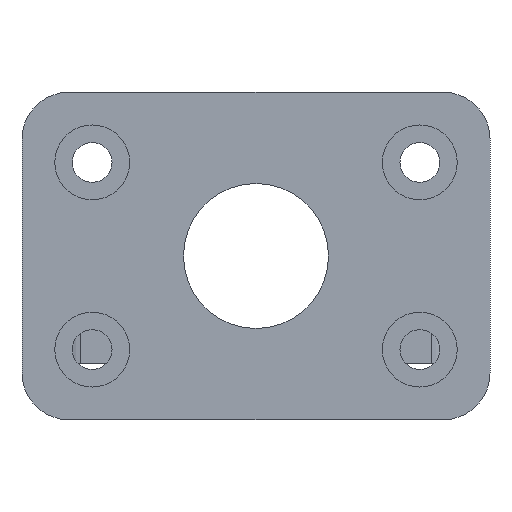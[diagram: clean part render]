
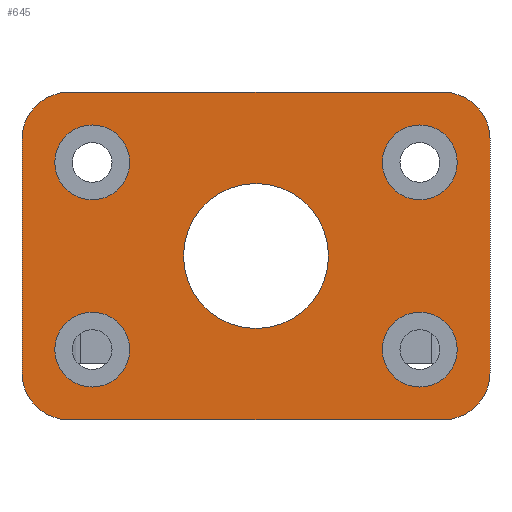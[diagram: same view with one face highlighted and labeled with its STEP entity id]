
A CAD part, front view. The second image highlights one B-rep face of the part: STEP entity #645.
In plain terms, the highlighted planar face has unit normal (0, -1, 0).
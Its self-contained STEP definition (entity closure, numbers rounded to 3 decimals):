
#33 = VERTEX_POINT('',#34);
#34 = CARTESIAN_POINT('',(0.,-17.5,20.2));
#40 = EDGE_CURVE('',#33,#33,#41,.T.);
#41 = CIRCLE('',#42,6.2);
#42 = AXIS2_PLACEMENT_3D('',#43,#44,#45);
#43 = CARTESIAN_POINT('',(0.,-17.5,14.));
#44 = DIRECTION('',(0.,1.,0.));
#45 = DIRECTION('',(0.,0.,1.));
#645 = ADVANCED_FACE('',(#646,#716,#727,#738,#741,#752),#763,.T.);
#646 = FACE_BOUND('',#647,.T.);
#647 = EDGE_LOOP('',(#648,#658,#667,#675,#684,#692,#701,#709));
#648 = ORIENTED_EDGE('',*,*,#649,.F.);
#649 = EDGE_CURVE('',#650,#652,#654,.T.);
#650 = VERTEX_POINT('',#651);
#651 = CARTESIAN_POINT('',(-20.,-17.5,4.));
#652 = VERTEX_POINT('',#653);
#653 = CARTESIAN_POINT('',(-20.,-17.5,24.));
#654 = LINE('',#655,#656);
#655 = CARTESIAN_POINT('',(-20.,-17.5,0.));
#656 = VECTOR('',#657,1.);
#657 = DIRECTION('',(0.,0.,1.));
#658 = ORIENTED_EDGE('',*,*,#659,.T.);
#659 = EDGE_CURVE('',#650,#660,#662,.T.);
#660 = VERTEX_POINT('',#661);
#661 = CARTESIAN_POINT('',(-16.,-17.5,0.));
#662 = CIRCLE('',#663,4.);
#663 = AXIS2_PLACEMENT_3D('',#664,#665,#666);
#664 = CARTESIAN_POINT('',(-16.,-17.5,4.));
#665 = DIRECTION('',(0.,-1.,0.));
#666 = DIRECTION('',(0.,0.,-1.));
#667 = ORIENTED_EDGE('',*,*,#668,.T.);
#668 = EDGE_CURVE('',#660,#669,#671,.T.);
#669 = VERTEX_POINT('',#670);
#670 = CARTESIAN_POINT('',(16.,-17.5,0.));
#671 = LINE('',#672,#673);
#672 = CARTESIAN_POINT('',(-20.,-17.5,0.));
#673 = VECTOR('',#674,1.);
#674 = DIRECTION('',(1.,0.,0.));
#675 = ORIENTED_EDGE('',*,*,#676,.F.);
#676 = EDGE_CURVE('',#677,#669,#679,.T.);
#677 = VERTEX_POINT('',#678);
#678 = CARTESIAN_POINT('',(20.,-17.5,4.));
#679 = CIRCLE('',#680,4.);
#680 = AXIS2_PLACEMENT_3D('',#681,#682,#683);
#681 = CARTESIAN_POINT('',(16.,-17.5,4.));
#682 = DIRECTION('',(0.,1.,0.));
#683 = DIRECTION('',(0.,0.,-1.));
#684 = ORIENTED_EDGE('',*,*,#685,.T.);
#685 = EDGE_CURVE('',#677,#686,#688,.T.);
#686 = VERTEX_POINT('',#687);
#687 = CARTESIAN_POINT('',(20.,-17.5,24.));
#688 = LINE('',#689,#690);
#689 = CARTESIAN_POINT('',(20.,-17.5,0.));
#690 = VECTOR('',#691,1.);
#691 = DIRECTION('',(0.,0.,1.));
#692 = ORIENTED_EDGE('',*,*,#693,.T.);
#693 = EDGE_CURVE('',#686,#694,#696,.T.);
#694 = VERTEX_POINT('',#695);
#695 = CARTESIAN_POINT('',(16.,-17.5,28.));
#696 = CIRCLE('',#697,4.);
#697 = AXIS2_PLACEMENT_3D('',#698,#699,#700);
#698 = CARTESIAN_POINT('',(16.,-17.5,24.));
#699 = DIRECTION('',(0.,-1.,0.));
#700 = DIRECTION('',(0.,0.,-1.));
#701 = ORIENTED_EDGE('',*,*,#702,.F.);
#702 = EDGE_CURVE('',#703,#694,#705,.T.);
#703 = VERTEX_POINT('',#704);
#704 = CARTESIAN_POINT('',(-16.,-17.5,28.));
#705 = LINE('',#706,#707);
#706 = CARTESIAN_POINT('',(-20.,-17.5,28.));
#707 = VECTOR('',#708,1.);
#708 = DIRECTION('',(1.,0.,0.));
#709 = ORIENTED_EDGE('',*,*,#710,.F.);
#710 = EDGE_CURVE('',#652,#703,#711,.T.);
#711 = CIRCLE('',#712,4.);
#712 = AXIS2_PLACEMENT_3D('',#713,#714,#715);
#713 = CARTESIAN_POINT('',(-16.,-17.5,24.));
#714 = DIRECTION('',(0.,1.,0.));
#715 = DIRECTION('',(0.,0.,-1.));
#716 = FACE_BOUND('',#717,.T.);
#717 = EDGE_LOOP('',(#718));
#718 = ORIENTED_EDGE('',*,*,#719,.T.);
#719 = EDGE_CURVE('',#720,#720,#722,.T.);
#720 = VERTEX_POINT('',#721);
#721 = CARTESIAN_POINT('',(-14.,-17.5,9.2));
#722 = CIRCLE('',#723,3.2);
#723 = AXIS2_PLACEMENT_3D('',#724,#725,#726);
#724 = CARTESIAN_POINT('',(-14.,-17.5,6.));
#725 = DIRECTION('',(0.,1.,0.));
#726 = DIRECTION('',(0.,0.,1.));
#727 = FACE_BOUND('',#728,.T.);
#728 = EDGE_LOOP('',(#729));
#729 = ORIENTED_EDGE('',*,*,#730,.T.);
#730 = EDGE_CURVE('',#731,#731,#733,.T.);
#731 = VERTEX_POINT('',#732);
#732 = CARTESIAN_POINT('',(14.,-17.5,9.2));
#733 = CIRCLE('',#734,3.2);
#734 = AXIS2_PLACEMENT_3D('',#735,#736,#737);
#735 = CARTESIAN_POINT('',(14.,-17.5,6.));
#736 = DIRECTION('',(0.,1.,0.));
#737 = DIRECTION('',(0.,0.,1.));
#738 = FACE_BOUND('',#739,.T.);
#739 = EDGE_LOOP('',(#740));
#740 = ORIENTED_EDGE('',*,*,#40,.T.);
#741 = FACE_BOUND('',#742,.T.);
#742 = EDGE_LOOP('',(#743));
#743 = ORIENTED_EDGE('',*,*,#744,.T.);
#744 = EDGE_CURVE('',#745,#745,#747,.T.);
#745 = VERTEX_POINT('',#746);
#746 = CARTESIAN_POINT('',(-14.,-17.5,25.2));
#747 = CIRCLE('',#748,3.2);
#748 = AXIS2_PLACEMENT_3D('',#749,#750,#751);
#749 = CARTESIAN_POINT('',(-14.,-17.5,22.));
#750 = DIRECTION('',(0.,1.,0.));
#751 = DIRECTION('',(0.,0.,1.));
#752 = FACE_BOUND('',#753,.T.);
#753 = EDGE_LOOP('',(#754));
#754 = ORIENTED_EDGE('',*,*,#755,.T.);
#755 = EDGE_CURVE('',#756,#756,#758,.T.);
#756 = VERTEX_POINT('',#757);
#757 = CARTESIAN_POINT('',(14.,-17.5,25.2));
#758 = CIRCLE('',#759,3.2);
#759 = AXIS2_PLACEMENT_3D('',#760,#761,#762);
#760 = CARTESIAN_POINT('',(14.,-17.5,22.));
#761 = DIRECTION('',(0.,1.,0.));
#762 = DIRECTION('',(0.,0.,1.));
#763 = PLANE('',#764);
#764 = AXIS2_PLACEMENT_3D('',#765,#766,#767);
#765 = CARTESIAN_POINT('',(-20.,-17.5,0.));
#766 = DIRECTION('',(0.,-1.,0.));
#767 = DIRECTION('',(1.,0.,0.));
